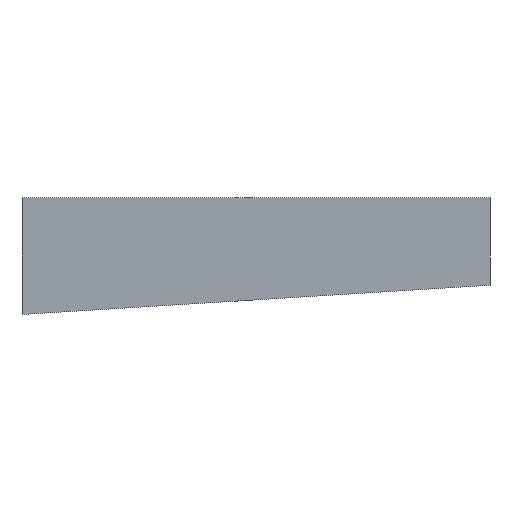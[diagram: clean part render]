
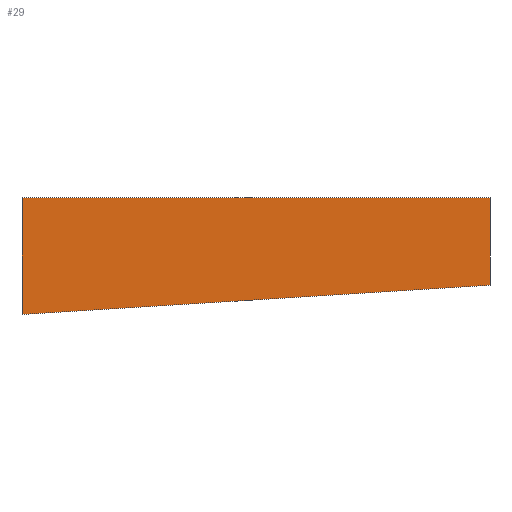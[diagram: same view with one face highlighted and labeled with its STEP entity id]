
A CAD part, front view. The second image highlights one B-rep face of the part: STEP entity #29.
In plain terms, the highlighted planar face has unit normal (0, -1, 0).
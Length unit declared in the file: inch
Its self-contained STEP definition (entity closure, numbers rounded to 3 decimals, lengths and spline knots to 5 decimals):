
#29=ADVANCED_FACE('',(#71),#547,.T.);
#71=FACE_OUTER_BOUND('',#113,.T.);
#113=EDGE_LOOP('',(#164,#165,#166,#167));
#164=ORIENTED_EDGE('',*,*,#324,.F.);
#165=ORIENTED_EDGE('',*,*,#321,.F.);
#166=ORIENTED_EDGE('',*,*,#330,.F.);
#167=ORIENTED_EDGE('',*,*,#328,.F.);
#321=EDGE_CURVE('',#488,#490,#405,.T.);
#324=EDGE_CURVE('',#490,#494,#408,.T.);
#328=EDGE_CURVE('',#494,#493,#412,.T.);
#330=EDGE_CURVE('',#493,#488,#414,.T.);
#405=B_SPLINE_CURVE_WITH_KNOTS('',1,(#783,#784),.UNSPECIFIED.,.F.,.F.,(2,
2),(96.18732,108.18732),.UNSPECIFIED.);
#408=B_SPLINE_CURVE_WITH_KNOTS('',1,(#789,#790),.UNSPECIFIED.,.F.,.F.,(2,
2),(108.18732,156.18732),.UNSPECIFIED.);
#412=B_SPLINE_CURVE_WITH_KNOTS('',1,(#797,#798),.UNSPECIFIED.,.F.,.F.,(2,
2),(-6.,3.),.UNSPECIFIED.);
#414=B_SPLINE_CURVE_WITH_KNOTS('',1,(#801,#802),.UNSPECIFIED.,.F.,.F.,(2,
2),(48.09366,96.18732),.UNSPECIFIED.);
#488=VERTEX_POINT('',#773);
#490=VERTEX_POINT('',#775);
#493=VERTEX_POINT('',#778);
#494=VERTEX_POINT('',#779);
#547=PLANE('',#680);
#680=AXIS2_PLACEMENT_3D('',#770,#725,$);
#725=DIRECTION('',(0.,-1.,0.));
#770=CARTESIAN_POINT('',(-1063.34355,-0.9583,400.84288));
#773=CARTESIAN_POINT('',(-1051.34355,-0.9583,387.34288));
#775=CARTESIAN_POINT('',(-1051.34355,-0.9583,399.34288));
#778=CARTESIAN_POINT('',(-1003.34355,-0.9583,390.34288));
#779=CARTESIAN_POINT('',(-1003.34355,-0.9583,399.34288));
#783=CARTESIAN_POINT('',(-1051.34355,-0.9583,387.34288));
#784=CARTESIAN_POINT('',(-1051.34355,-0.9583,399.34288));
#789=CARTESIAN_POINT('',(-1051.34355,-0.9583,399.34288));
#790=CARTESIAN_POINT('',(-1003.34355,-0.9583,399.34288));
#797=CARTESIAN_POINT('',(-1003.34355,-0.9583,399.34288));
#798=CARTESIAN_POINT('',(-1003.34355,-0.9583,390.34288));
#801=CARTESIAN_POINT('',(-1003.34355,-0.9583,390.34288));
#802=CARTESIAN_POINT('',(-1051.34355,-0.9583,387.34288));
